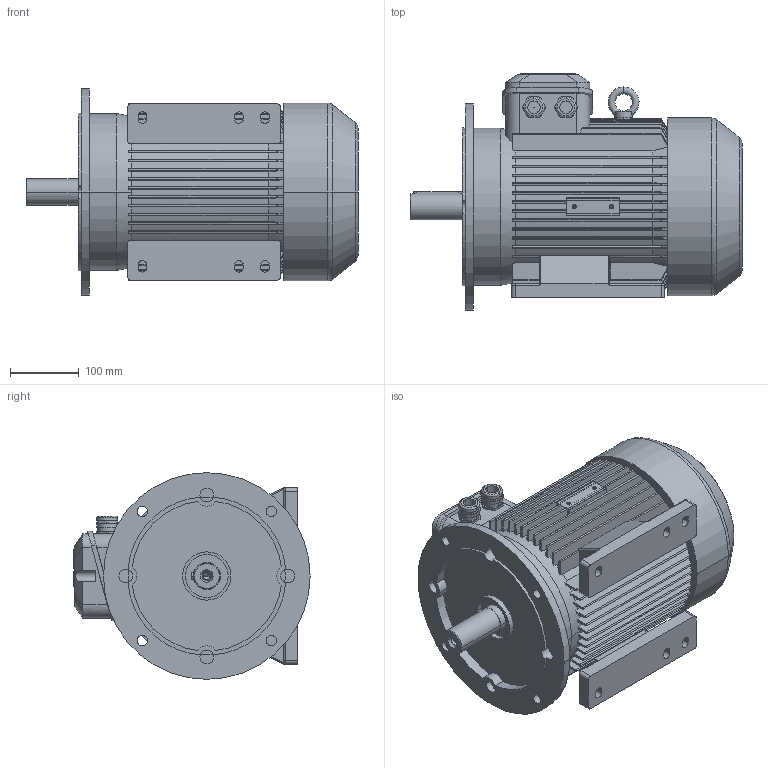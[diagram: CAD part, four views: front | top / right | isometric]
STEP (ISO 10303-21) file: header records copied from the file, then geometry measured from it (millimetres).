
FILE_DESCRIPTION (( 'STEP AP214' ), '1' );
FILE_NAME ('MAP132M6B IM2041 A300 FF265.STEP', '2021-03-08T10:38:35', ( '' ), ( '' ), 'SwSTEP 2.0', 'SolidWorks 2018', '' );
FILE_SCHEMA (( 'AUTOMOTIVE_DESIGN' ));
Length unit declared in the file: millimetre
Products named in the file (1): MAP132M6B IM2041 A300 FF265
Bounding box: 482 x 343 x 300 mm (x, y, z)
Volume: 18412331.3 mm3; surface area: 1285590.1 mm2
Topology: 1 solids, 6 shells, 941 faces, 2564 edges, 1678 vertices
Faces by surface type: plane 491, cylinder 279, cone 119, bspline 32, torus 20
Entity records: 35559 total; most frequent: CARTESIAN_POINT 12261, ORIENTED_EDGE 5124, DIRECTION 4520, EDGE_CURVE 2562, VERTEX_POINT 1678, AXIS2_PLACEMENT_3D 1563, LINE 1394, VECTOR 1394
